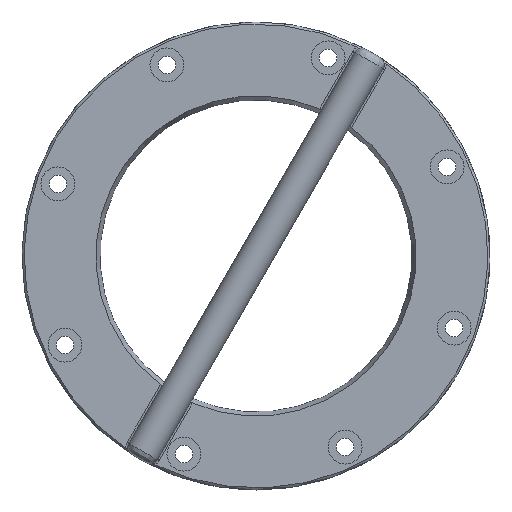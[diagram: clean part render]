
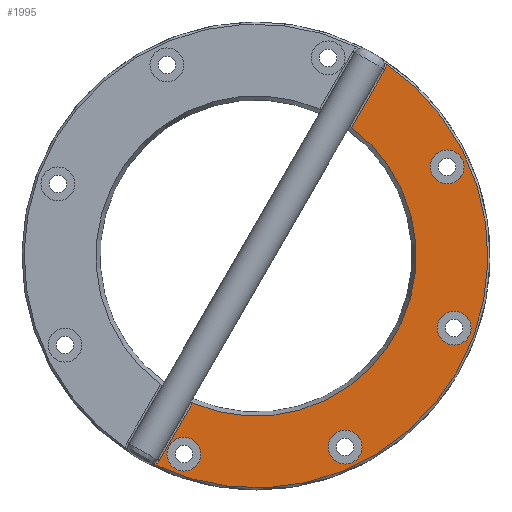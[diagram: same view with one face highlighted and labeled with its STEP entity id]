
A CAD part, front view. The second image highlights one B-rep face of the part: STEP entity #1995.
In plain terms, the highlighted planar face has unit normal (0, -1, 0).
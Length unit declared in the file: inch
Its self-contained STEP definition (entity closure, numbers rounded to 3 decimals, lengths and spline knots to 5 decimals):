
#317=CARTESIAN_POINT('',(-1.09798,-0.0625,-3.01666));
#318=DIRECTION('',(0.,1.,0.));
#319=DIRECTION('',(0.,0.,1.));
#320=AXIS2_PLACEMENT_3D('',#317,#318,#319);
#322=CARTESIAN_POINT('',(-1.09798,-0.0625,-3.01666));
#323=DIRECTION('',(0.,1.,0.));
#324=DIRECTION('',(0.,0.,-1.));
#325=AXIS2_PLACEMENT_3D('',#322,#323,#324);
#327=CARTESIAN_POINT('',(1.35672,-0.0625,-2.90949));
#328=DIRECTION('',(0.,1.,0.));
#329=DIRECTION('',(0.,0.,1.));
#330=AXIS2_PLACEMENT_3D('',#327,#328,#329);
#332=CARTESIAN_POINT('',(1.35672,-0.0625,-2.90949));
#333=DIRECTION('',(0.,1.,0.));
#334=DIRECTION('',(0.,0.,-1.));
#335=AXIS2_PLACEMENT_3D('',#332,#333,#334);
#337=CARTESIAN_POINT('',(3.01666,-0.0625,-1.09798));
#338=DIRECTION('',(0.,1.,0.));
#339=DIRECTION('',(0.,0.,1.));
#340=AXIS2_PLACEMENT_3D('',#337,#338,#339);
#342=CARTESIAN_POINT('',(3.01666,-0.0625,-1.09798));
#343=DIRECTION('',(0.,1.,0.));
#344=DIRECTION('',(0.,0.,-1.));
#345=AXIS2_PLACEMENT_3D('',#342,#343,#344);
#347=CARTESIAN_POINT('',(2.90949,-0.0625,1.35672));
#348=DIRECTION('',(0.,1.,0.));
#349=DIRECTION('',(0.,0.,1.));
#350=AXIS2_PLACEMENT_3D('',#347,#348,#349);
#352=CARTESIAN_POINT('',(2.90949,-0.0625,1.35672));
#353=DIRECTION('',(0.,1.,0.));
#354=DIRECTION('',(0.,0.,-1.));
#355=AXIS2_PLACEMENT_3D('',#352,#353,#354);
#395=CARTESIAN_POINT('',(1.82587,-0.0625,2.91249));
#396=DIRECTION('',(0.,-1.,0.));
#397=DIRECTION('',(0.866,0.,-0.5));
#398=AXIS2_PLACEMENT_3D('',#395,#396,#397);
#400=CARTESIAN_POINT('',(-1.60936,-0.0625,-3.03749));
#401=DIRECTION('',(0.,1.,0.));
#402=DIRECTION('',(0.866,0.,-0.5));
#403=AXIS2_PLACEMENT_3D('',#400,#401,#402);
#405=DIRECTION('',(-0.5,0.,-0.866));
#406=VECTOR('',#405,1.01401);
#407=CARTESIAN_POINT('',(-0.96704,-0.0625,-2.23746));
#408=LINE('',#407,#406);
#409=DIRECTION('',(0.5,0.,0.866));
#410=VECTOR('',#409,1.01401);
#411=CARTESIAN_POINT('',(1.45418,-0.0625,1.95621));
#412=LINE('',#411,#410);
#904=CARTESIAN_POINT('',(0.,-0.0625,0.));
#905=DIRECTION('',(0.,-1.,0.));
#906=DIRECTION('',(-0.436,0.,-0.9));
#907=AXIS2_PLACEMENT_3D('',#904,#905,#906);
#1186=CARTESIAN_POINT('',(0.,-0.0625,0.));
#1187=DIRECTION('',(0.,1.,0.));
#1188=DIRECTION('',(0.597,0.,0.803));
#1189=AXIS2_PLACEMENT_3D('',#1186,#1187,#1188);
#1356=CARTESIAN_POINT('',(-1.09798,-0.0625,-2.75916));
#1357=CARTESIAN_POINT('',(-1.09798,-0.0625,-3.27416));
#1358=VERTEX_POINT('',#1356);
#1359=VERTEX_POINT('',#1357);
#1360=CARTESIAN_POINT('',(1.35672,-0.0625,-2.65199));
#1361=CARTESIAN_POINT('',(1.35672,-0.0625,-3.16699));
#1362=VERTEX_POINT('',#1360);
#1363=VERTEX_POINT('',#1361);
#1364=CARTESIAN_POINT('',(3.01666,-0.0625,-0.84048));
#1365=CARTESIAN_POINT('',(3.01666,-0.0625,-1.35548));
#1366=VERTEX_POINT('',#1364);
#1367=VERTEX_POINT('',#1365);
#1368=CARTESIAN_POINT('',(2.90949,-0.0625,1.61422));
#1369=CARTESIAN_POINT('',(2.90949,-0.0625,1.09922));
#1370=VERTEX_POINT('',#1368);
#1371=VERTEX_POINT('',#1369);
#1510=CARTESIAN_POINT('',(1.96118,-0.0625,2.83437));
#1511=CARTESIAN_POINT('',(1.98178,-0.0625,2.92272));
#1512=VERTEX_POINT('',#1510);
#1513=VERTEX_POINT('',#1511);
#1520=CARTESIAN_POINT('',(1.45418,-0.0625,1.95621));
#1521=VERTEX_POINT('',#1520);
#1526=CARTESIAN_POINT('',(-1.47404,-0.0625,-3.11562));
#1527=CARTESIAN_POINT('',(-1.54026,-0.0625,-3.17763));
#1528=VERTEX_POINT('',#1526);
#1529=VERTEX_POINT('',#1527);
#1530=CARTESIAN_POINT('',(-0.96704,-0.0625,-2.23746));
#1531=VERTEX_POINT('',#1530);
#1954=CARTESIAN_POINT('',(0.,-0.0625,0.));
#1955=DIRECTION('',(0.,-1.,0.));
#1956=DIRECTION('',(0.,0.,1.));
#1957=AXIS2_PLACEMENT_3D('',#1954,#1955,#1956);
#1958=PLANE('',#1957);
#1959=ORIENTED_EDGE('',*,*,#1900,.T.);
#1961=ORIENTED_EDGE('',*,*,#1960,.F.);
#1963=ORIENTED_EDGE('',*,*,#1962,.F.);
#1965=ORIENTED_EDGE('',*,*,#1964,.F.);
#1967=ORIENTED_EDGE('',*,*,#1966,.F.);
#1968=ORIENTED_EDGE('',*,*,#1888,.T.);
#1969=EDGE_LOOP('',(#1959,#1961,#1963,#1965,#1967,#1968));
#1970=FACE_OUTER_BOUND('',#1969,.F.);
#1972=ORIENTED_EDGE('',*,*,#1971,.F.);
#1974=ORIENTED_EDGE('',*,*,#1973,.F.);
#1975=EDGE_LOOP('',(#1972,#1974));
#1976=FACE_BOUND('',#1975,.F.);
#1978=ORIENTED_EDGE('',*,*,#1977,.F.);
#1980=ORIENTED_EDGE('',*,*,#1979,.F.);
#1981=EDGE_LOOP('',(#1978,#1980));
#1982=FACE_BOUND('',#1981,.F.);
#1984=ORIENTED_EDGE('',*,*,#1983,.F.);
#1986=ORIENTED_EDGE('',*,*,#1985,.F.);
#1987=EDGE_LOOP('',(#1984,#1986));
#1988=FACE_BOUND('',#1987,.F.);
#1990=ORIENTED_EDGE('',*,*,#1989,.F.);
#1992=ORIENTED_EDGE('',*,*,#1991,.F.);
#1993=EDGE_LOOP('',(#1990,#1992));
#1994=FACE_BOUND('',#1993,.F.);
#321=CIRCLE('',#320,0.2575);
#326=CIRCLE('',#325,0.2575);
#331=CIRCLE('',#330,0.2575);
#336=CIRCLE('',#335,0.2575);
#341=CIRCLE('',#340,0.2575);
#346=CIRCLE('',#345,0.2575);
#351=CIRCLE('',#350,0.2575);
#356=CIRCLE('',#355,0.2575);
#399=CIRCLE('',#398,0.15625);
#404=CIRCLE('',#403,0.15625);
#908=CIRCLE('',#907,3.53125);
#1190=CIRCLE('',#1189,2.4375);
#1888=EDGE_CURVE('',#1521,#1512,#412,.T.);
#1900=EDGE_CURVE('',#1512,#1513,#399,.T.);
#1960=EDGE_CURVE('',#1529,#1513,#908,.T.);
#1962=EDGE_CURVE('',#1528,#1529,#404,.T.);
#1964=EDGE_CURVE('',#1531,#1528,#408,.T.);
#1966=EDGE_CURVE('',#1521,#1531,#1190,.T.);
#1971=EDGE_CURVE('',#1358,#1359,#321,.T.);
#1973=EDGE_CURVE('',#1359,#1358,#326,.T.);
#1977=EDGE_CURVE('',#1362,#1363,#331,.T.);
#1979=EDGE_CURVE('',#1363,#1362,#336,.T.);
#1983=EDGE_CURVE('',#1366,#1367,#341,.T.);
#1985=EDGE_CURVE('',#1367,#1366,#346,.T.);
#1989=EDGE_CURVE('',#1370,#1371,#351,.T.);
#1991=EDGE_CURVE('',#1371,#1370,#356,.T.);
#1995=ADVANCED_FACE('',(#1970,#1976,#1982,#1988,#1994),#1958,.T.);
